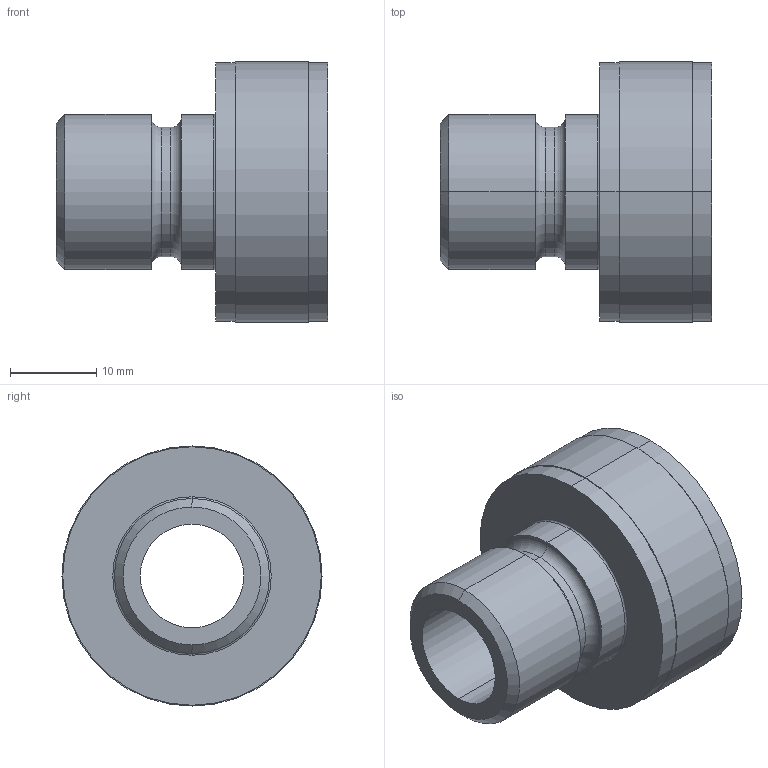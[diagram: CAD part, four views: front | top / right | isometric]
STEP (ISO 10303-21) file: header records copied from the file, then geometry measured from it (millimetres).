
FILE_DESCRIPTION (( 'STEP AP214' ), '1' );
FILE_NAME ('0000003164.STEP', '2015-11-23T10:12:51', ( 'HP' ), ( 'Hewlett-Packard Company' ), 'SwSTEP 2.0', 'SolidWorks 2014', '' );
FILE_SCHEMA (( 'AUTOMOTIVE_DESIGN' ));
Length unit declared in the file: millimetre
Products named in the file (1): 0000003164
Bounding box: 31.5 x 30.2 x 30.2 mm (x, y, z)
Volume: 8699.2 mm3; surface area: 5126 mm2
Topology: 1 solids, 1 shells, 38 faces, 76 edges, 48 vertices
Faces by surface type: cylinder 20, plane 10, torus 6, cone 2
Entity records: 1169 total; most frequent: DIRECTION 208, CARTESIAN_POINT 163, ORIENTED_EDGE 152, AXIS2_PLACEMENT_3D 93, EDGE_CURVE 76, CIRCLE 54, VERTEX_POINT 48, EDGE_LOOP 48
